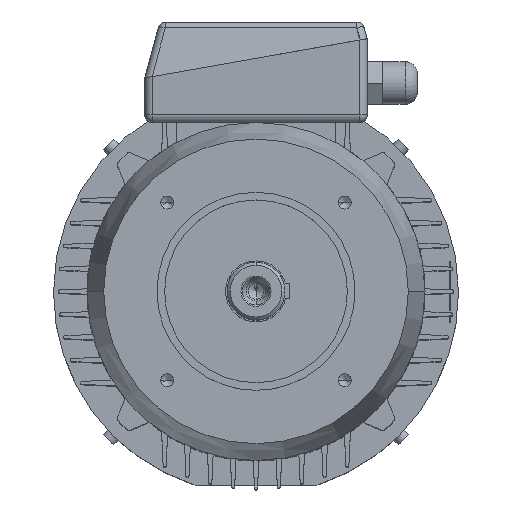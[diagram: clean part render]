
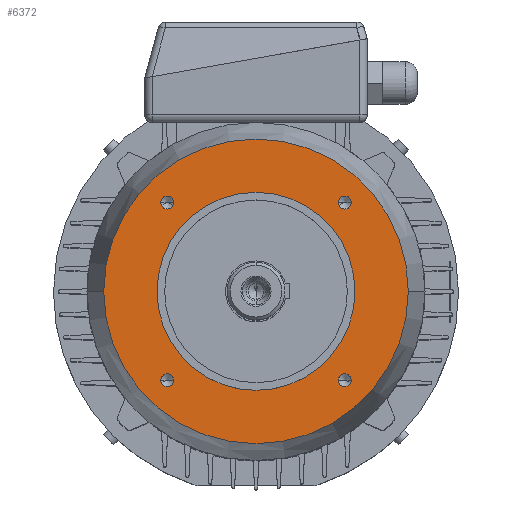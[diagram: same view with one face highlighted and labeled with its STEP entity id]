
A CAD part, top view. The second image highlights one B-rep face of the part: STEP entity #6372.
In plain terms, the highlighted planar face has unit normal (0, 0, 1).
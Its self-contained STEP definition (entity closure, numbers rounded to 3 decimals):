
#117 = CIRCLE ( 'NONE', #118, 4.25 ) ;
#118 = AXIS2_PLACEMENT_3D ( 'NONE', #119, #120, #130 ) ;
#119 = CARTESIAN_POINT ( 'NONE',  ( -58.336, -58.336, 58. ) ) ;
#120 = DIRECTION ( 'NONE',  ( 0., 0., 1. ) ) ;
#130 = DIRECTION ( 'NONE',  ( 1., 0., 0. ) ) ;
#198 = VERTEX_POINT ( 'NONE', #10317 ) ;
#461 = EDGE_CURVE ( 'NONE', #1509, #198, #10553, .T. ) ;
#1269 = VERTEX_POINT ( 'NONE', #11115 ) ;
#17859 = CIRCLE ( 'NONE', #17860, 4.25 ) ;
#17860 = AXIS2_PLACEMENT_3D ( 'NONE', #17863, #17864, #17865 ) ;
#17863 = CARTESIAN_POINT ( 'NONE',  ( 58.336, -58.336, 58. ) ) ;
#17864 = DIRECTION ( 'NONE',  ( 0., 0., 1. ) ) ;
#17865 = DIRECTION ( 'NONE',  ( 1., 0., 0. ) ) ;
#1509 = VERTEX_POINT ( 'NONE', #12079 ) ;
#1529 = VERTEX_POINT ( 'NONE', #12082 ) ;
#1607 = CIRCLE ( 'NONE', #1608, 65. ) ;
#1608 = AXIS2_PLACEMENT_3D ( 'NONE', #1609, #1622, #1623 ) ;
#1609 = CARTESIAN_POINT ( 'NONE',  ( 0., 0., 58. ) ) ;
#1622 = DIRECTION ( 'NONE',  ( 0., 0., 1. ) ) ;
#1623 = DIRECTION ( 'NONE',  ( 1., 0., 0. ) ) ;
#1784 = EDGE_CURVE ( 'NONE', #1529, #1269, #12314, .T. ) ;
#1932 = EDGE_CURVE ( 'NONE', #2947, #10015, #12421, .T. ) ;
#2163 = CARTESIAN_POINT ( 'NONE',  ( 62.586, 58.336, 58. ) ) ;
#2251 = CARTESIAN_POINT ( 'NONE',  ( -100., 0., 58. ) ) ;
#2434 = CARTESIAN_POINT ( 'NONE',  ( 100., 0., 58. ) ) ;
#2505 = ORIENTED_EDGE ( 'NONE', *, *, #10161, .T. ) ;
#2590 = CIRCLE ( 'NONE', #2591, 100. ) ;
#2591 = AXIS2_PLACEMENT_3D ( 'NONE', #2592, #2593, #2594 ) ;
#2592 = CARTESIAN_POINT ( 'NONE',  ( 0., 0., 58. ) ) ;
#2593 = DIRECTION ( 'NONE',  ( 0., 0., 1. ) ) ;
#2594 = DIRECTION ( 'NONE',  ( 1., 0., 0. ) ) ;
#2947 = VERTEX_POINT ( 'NONE', #13421 ) ;
#3064 = CARTESIAN_POINT ( 'NONE',  ( 62.586, -58.336, 58. ) ) ;
#3111 = EDGE_CURVE ( 'NONE', #10048, #10100, #13486, .T. ) ;
#3184 = CIRCLE ( 'NONE', #3185, 4.25 ) ;
#3185 = AXIS2_PLACEMENT_3D ( 'NONE', #3186, #3187, #3188 ) ;
#3186 = CARTESIAN_POINT ( 'NONE',  ( 58.336, -58.336, 58. ) ) ;
#3187 = DIRECTION ( 'NONE',  ( 0., 0., 1. ) ) ;
#3188 = DIRECTION ( 'NONE',  ( 1., 0., 0. ) ) ;
#3553 = ORIENTED_EDGE ( 'NONE', *, *, #3111, .T. ) ;
#3910 = CARTESIAN_POINT ( 'NONE',  ( 54.086, -58.336, 58. ) ) ;
#4156 = EDGE_LOOP ( 'NONE', ( #3553, #2505 ) ) ;
#4443 = ORIENTED_EDGE ( 'NONE', *, *, #1932, .F. ) ;
#4914 = VERTEX_POINT ( 'NONE', #15074 ) ;
#5049 = EDGE_CURVE ( 'NONE', #10015, #2947, #15158, .T. ) ;
#5178 = EDGE_CURVE ( 'NONE', #6211, #4914, #15213, .T. ) ;
#5477 = ORIENTED_EDGE ( 'NONE', *, *, #5049, .F. ) ;
#5660 = CIRCLE ( 'NONE', #5661, 4.25 ) ;
#5661 = AXIS2_PLACEMENT_3D ( 'NONE', #5662, #5663, #5664 ) ;
#5662 = CARTESIAN_POINT ( 'NONE',  ( -58.336, 58.336, 58. ) ) ;
#5663 = DIRECTION ( 'NONE',  ( 0., 0., 1. ) ) ;
#5664 = DIRECTION ( 'NONE',  ( 1., 0., 0. ) ) ;
#6084 = EDGE_LOOP ( 'NONE', ( #5477, #4443 ) ) ;
#6211 = VERTEX_POINT ( 'NONE', #16056 ) ;
#6372 = ADVANCED_FACE ( 'NONE', ( #16185, #16186, #16187, #16188, #16189, #16190 ), #16197, .F. ) ;
#8176 = EDGE_CURVE ( 'NONE', #10931, #12216, #17859, .T. ) ;
#8609 = ORIENTED_EDGE ( 'NONE', *, *, #8176, .F. ) ;
#9125 = EDGE_LOOP ( 'NONE', ( #8609, #15628 ) ) ;
#9204 = ORIENTED_EDGE ( 'NONE', *, *, #5178, .F. ) ;
#9359 = EDGE_CURVE ( 'NONE', #4914, #6211, #117, .T. ) ;
#9475 = ORIENTED_EDGE ( 'NONE', *, *, #9359, .F. ) ;
#9700 = EDGE_LOOP ( 'NONE', ( #9475, #9204 ) ) ;
#9779 = EDGE_CURVE ( 'NONE', #1269, #1529, #1607, .T. ) ;
#9899 = ORIENTED_EDGE ( 'NONE', *, *, #9779, .F. ) ;
#10015 = VERTEX_POINT ( 'NONE', #2163 ) ;
#10048 = VERTEX_POINT ( 'NONE', #2251 ) ;
#10055 = ORIENTED_EDGE ( 'NONE', *, *, #1784, .F. ) ;
#10100 = VERTEX_POINT ( 'NONE', #2434 ) ;
#10161 = EDGE_CURVE ( 'NONE', #10100, #10048, #2590, .T. ) ;
#10234 = EDGE_LOOP ( 'NONE', ( #10055, #9899 ) ) ;
#10317 = CARTESIAN_POINT ( 'NONE',  ( -54.086, 58.336, 58. ) ) ;
#10553 = CIRCLE ( 'NONE', #10554, 4.25 ) ;
#10554 = AXIS2_PLACEMENT_3D ( 'NONE', #10555, #10556, #10557 ) ;
#10555 = CARTESIAN_POINT ( 'NONE',  ( -58.336, 58.336, 58. ) ) ;
#10556 = DIRECTION ( 'NONE',  ( 0., 0., 1. ) ) ;
#10557 = DIRECTION ( 'NONE',  ( 1., 0., 0. ) ) ;
#10931 = VERTEX_POINT ( 'NONE', #3064 ) ;
#11115 = CARTESIAN_POINT ( 'NONE',  ( -65., 0., 58. ) ) ;
#11188 = EDGE_CURVE ( 'NONE', #12216, #10931, #3184, .T. ) ;
#12079 = CARTESIAN_POINT ( 'NONE',  ( -62.586, 58.336, 58. ) ) ;
#12082 = CARTESIAN_POINT ( 'NONE',  ( 65., 0., 58. ) ) ;
#12216 = VERTEX_POINT ( 'NONE', #3910 ) ;
#12314 = CIRCLE ( 'NONE', #12315, 65. ) ;
#12315 = AXIS2_PLACEMENT_3D ( 'NONE', #12316, #12317, #12318 ) ;
#12316 = CARTESIAN_POINT ( 'NONE',  ( 0., 0., 58. ) ) ;
#12317 = DIRECTION ( 'NONE',  ( 0., 0., 1. ) ) ;
#12318 = DIRECTION ( 'NONE',  ( 1., 0., 0. ) ) ;
#12421 = CIRCLE ( 'NONE', #12428, 4.25 ) ;
#12428 = AXIS2_PLACEMENT_3D ( 'NONE', #12429, #12430, #12431 ) ;
#12429 = CARTESIAN_POINT ( 'NONE',  ( 58.336, 58.336, 58. ) ) ;
#12430 = DIRECTION ( 'NONE',  ( 0., 0., 1. ) ) ;
#12431 = DIRECTION ( 'NONE',  ( 1., 0., 0. ) ) ;
#13421 = CARTESIAN_POINT ( 'NONE',  ( 54.086, 58.336, 58. ) ) ;
#13486 = CIRCLE ( 'NONE', #13487, 100. ) ;
#13487 = AXIS2_PLACEMENT_3D ( 'NONE', #13488, #13489, #13490 ) ;
#13488 = CARTESIAN_POINT ( 'NONE',  ( 0., 0., 58. ) ) ;
#13489 = DIRECTION ( 'NONE',  ( 0., 0., 1. ) ) ;
#13490 = DIRECTION ( 'NONE',  ( 1., 0., 0. ) ) ;
#13685 = ORIENTED_EDGE ( 'NONE', *, *, #461, .F. ) ;
#14307 = EDGE_CURVE ( 'NONE', #198, #1509, #5660, .T. ) ;
#14736 = ORIENTED_EDGE ( 'NONE', *, *, #14307, .F. ) ;
#15074 = CARTESIAN_POINT ( 'NONE',  ( -54.086, -58.336, 58. ) ) ;
#15158 = CIRCLE ( 'NONE', #15159, 4.25 ) ;
#15159 = AXIS2_PLACEMENT_3D ( 'NONE', #15160, #15161, #15162 ) ;
#15160 = CARTESIAN_POINT ( 'NONE',  ( 58.336, 58.336, 58. ) ) ;
#15161 = DIRECTION ( 'NONE',  ( 0., 0., 1. ) ) ;
#15162 = DIRECTION ( 'NONE',  ( 1., 0., 0. ) ) ;
#15213 = CIRCLE ( 'NONE', #15214, 4.25 ) ;
#15214 = AXIS2_PLACEMENT_3D ( 'NONE', #15215, #15216, #15217 ) ;
#15215 = CARTESIAN_POINT ( 'NONE',  ( -58.336, -58.336, 58. ) ) ;
#15216 = DIRECTION ( 'NONE',  ( 0., 0., 1. ) ) ;
#15217 = DIRECTION ( 'NONE',  ( 1., 0., 0. ) ) ;
#15337 = EDGE_LOOP ( 'NONE', ( #14736, #13685 ) ) ;
#15628 = ORIENTED_EDGE ( 'NONE', *, *, #11188, .F. ) ;
#16056 = CARTESIAN_POINT ( 'NONE',  ( -62.586, -58.336, 58. ) ) ;
#16185 = FACE_BOUND ( 'NONE', #6084, .T. ) ;
#16186 = FACE_OUTER_BOUND ( 'NONE', #4156, .T. ) ;
#16187 = FACE_BOUND ( 'NONE', #10234, .T. ) ;
#16188 = FACE_BOUND ( 'NONE', #9700, .T. ) ;
#16189 = FACE_BOUND ( 'NONE', #9125, .T. ) ;
#16190 = FACE_BOUND ( 'NONE', #15337, .T. ) ;
#16197 = PLANE ( 'NONE',  #16198 ) ;
#16198 = AXIS2_PLACEMENT_3D ( 'NONE', #16199, #16200, #16201 ) ;
#16199 = CARTESIAN_POINT ( 'NONE',  ( 0., 100., 58. ) ) ;
#16200 = DIRECTION ( 'NONE',  ( 0., 0., -1. ) ) ;
#16201 = DIRECTION ( 'NONE',  ( -1., 0., 0. ) ) ;
